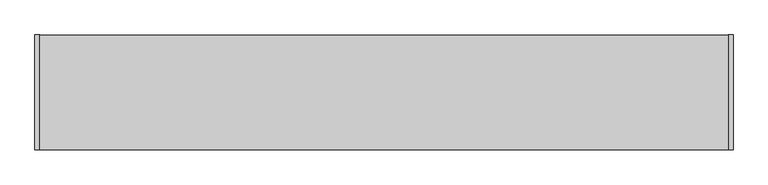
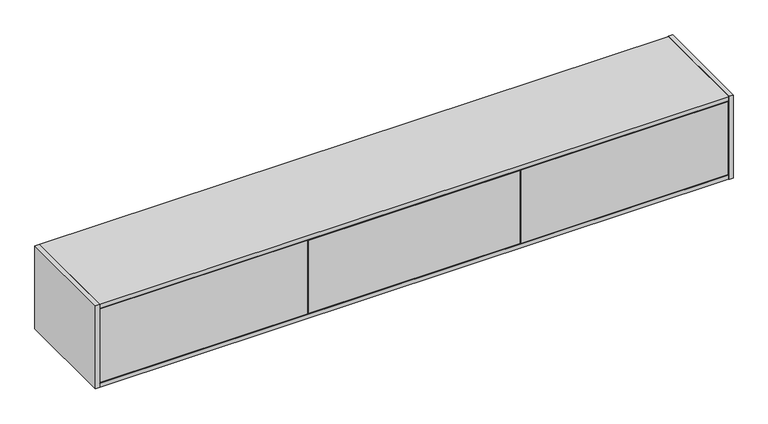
"""IFC4 building model written with IfcOpenShell, lengths in millimetres: furniture geometry, Geiger_GeigerOneCasegoods_HangingStorageThreeSections : Vertical Veneer 108Wx18Dx14.875H."""

from ifc_helpers import new_model, si_unit, frame, origin, origin_with_axes, place, context, project, spatial, polyline, outline, extrude, source, transform, mapped, element, save


def furniture_1991a30d(model_context):
    return source(origin(), model_context, "Body", "SweptSolid", [
        extrude(outline(polyline([(911.4940711, -431.1), (911.4940711, -450.1), (22.0118577, -450.1), (22.0118577, -431.1), (911.4940711, -431.1)])), frame((0.0, 0.0, 22.5118577), z_axis=(0.0, 0.0, 1.0), x_axis=(1.0, 0.0, 0.0)), (0.0, 0.0, 1.0), 332.8078846),
        extrude(outline(polyline([(2718.9881423, -431.1), (2718.9881423, -450.1), (1827.5059289, -450.1), (1827.5059289, -431.1), (2718.9881423, -431.1)])), frame((0.0, 0.0, 22.5118577), z_axis=(0.0, 0.0, 1.0), x_axis=(1.0, 0.0, 0.0)), (0.0, 0.0, 1.0), 332.8078846),
        extrude(outline(polyline([(1824.4940711, -431.1), (1824.4940711, -450.1), (914.5059289, -450.1), (914.5059289, -431.1), (1824.4940711, -431.1)])), frame((0.0, 0.0, 22.5118577), z_axis=(0.0, 0.0, 1.0), x_axis=(1.0, 0.0, 0.0)), (0.0, 0.0, 1.0), 332.8078846),
        extrude(outline(polyline([(932.0, -435.0), (913.0, -435.0), (913.0, -38.5), (932.0, -38.5), (932.0, -435.0)])), frame((0.0, 0.0, 19.5), z_axis=(0.0, 0.0, 1.0), x_axis=(1.0, 0.0, 0.0)), (0.0, 0.0, 1.0), 338.8316),
        extrude(outline(polyline([(1827.9902, -435.0), (1808.9902, -435.0), (1808.9902, -38.5), (1827.9902, -38.5), (1827.9902, -435.0)])), frame((0.0, 0.0, 19.5), z_axis=(0.0, 0.0, 1.0), x_axis=(1.0, 0.0, 0.0)), (0.0, 0.0, 1.0), 338.8316),
        extrude(outline(polyline([(913.0, -435.0), (894.0, -435.0), (894.0, -38.5), (913.0, -38.5), (913.0, -435.0)])), frame((0.0, 0.0, 19.5), z_axis=(0.0, 0.0, 1.0), x_axis=(1.0, 0.0, 0.0)), (0.0, 0.0, 1.0), 338.8316),
        extrude(outline(polyline([(1846.9902, -435.0), (1827.9902, -435.0), (1827.9902, -38.5), (1846.9902, -38.5), (1846.9902, -435.0)])), frame((0.0, 0.0, 19.5), z_axis=(0.0, 0.0, 1.0), x_axis=(1.0, 0.0, 0.0)), (0.0, 0.0, 1.0), 338.8316),
        extrude(outline(polyline([(2721.9902, -20.0), (2721.9902, -32.5), (2727.9902, -32.5), (2727.9902, -38.5), (13.0, -38.5), (13.0, -32.5), (19.0000031, -32.5), (19.0000031, -20.0), (2721.9902, -20.0)])), frame((0.0, 0.0, 13.5), z_axis=(0.0, 0.0, 1.0), x_axis=(1.0, 0.0, 0.0)), (0.0, 0.0, 1.0), 358.3316),
        extrude(outline(polyline([(2721.9902, -0.5), (2721.9902, -19.5), (19.0000031, -19.5), (19.0000031, -0.5), (2721.9902, -0.5)])), frame((0.0, 0.0, 19.5), z_axis=(0.0, 0.0, 1.0), x_axis=(1.0, 0.0, 0.0)), (0.0, 0.0, 1.0), 83.0),
        extrude(outline(polyline([(2721.9902, -450.1), (19.0000031, -450.1), (19.0000031, -0.5), (2721.9902, -0.5), (2721.9902, -450.1)])), frame((0.0, 0.0, 358.3316), z_axis=(0.0, 0.0, 1.0), x_axis=(1.0, 0.0, 0.0)), (0.0, 0.0, 1.0), 19.0),
        extrude(outline(polyline([(2721.9902, -450.1), (19.0000031, -450.1), (19.0000031, -0.5), (2721.9902, -0.5), (2721.9902, -450.1)])), frame((0.0, 0.0, 0.5), z_axis=(0.0, 0.0, 1.0), x_axis=(1.0, 0.0, 0.0)), (0.0, 0.0, 1.0), 19.0),
        extrude(outline(polyline([(19.0000031, -450.6), (0.0, -450.6), (0.0, 0.0), (19.0000031, 0.0), (19.0000031, -450.6)])), origin_with_axes(), (0.0, 0.0, 1.0), 377.825),
        extrude(outline(polyline([(2740.9902, -450.6), (2721.9902, -450.6), (2721.9902, 0.0), (2740.9902, 0.0), (2740.9902, -450.6)])), origin_with_axes(), (0.0, 0.0, 1.0), 377.825),
    ])


if __name__ == "__main__":
    model = new_model("IFC4")
    model_context = context("Model", 3, world=origin())
    ifc_project = project(units=[si_unit("LENGTHUNIT", "METRE", prefix="MILLI")], contexts=[model_context])
    site = spatial("IfcSite", under=ifc_project)
    building = spatial("IfcBuilding", under=site)
    placement = place(None, origin())
    furniture_shape = furniture_1991a30d(model_context)
    element("IfcFurniture", 1, ObjectType="Geiger_GeigerOneCasegoods_HangingStorageThreeSections : Vertical Veneer 108Wx18Dx14.875H", at=placement, inside=building, context=model_context, shape_type="MappedRepresentation", body=[
        mapped(furniture_shape, transform((0.0, 0.0, 0.0), x_axis=(1.0, 0.0, 0.0), y_axis=(0.0, 1.0, 0.0), z_axis=(0.0, 0.0, 1.0))),
    ])
    save(model, "model.ifc")
